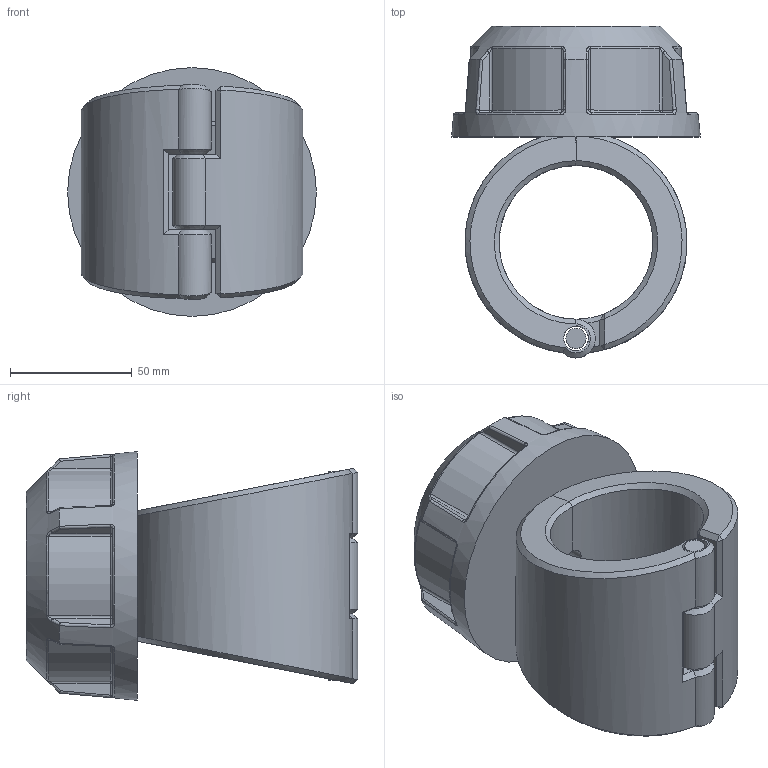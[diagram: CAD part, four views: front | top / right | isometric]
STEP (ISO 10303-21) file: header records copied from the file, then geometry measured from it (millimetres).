
FILE_DESCRIPTION(/* description */ ('Plassadle Threaded 63x1/2'''''),/* implementation_level */ '2;1');
FILE_NAME(/* name */ 'C:\Users\comp2\Dropbox\99-16-3568-Processing\Mechanical Fittings\16300\stp\163000063005.stp',/* time_stamp */ '2022-02-03T11:46:28+00:00',/* author */ ('comp2'),/* organization */ (''),/* preprocessor_version */ 'ST-DEVELOPER v17.2',/* originating_system */ 'Autodesk Inventor 2019',/* authorisation */ '');
FILE_SCHEMA (('AUTOMOTIVE_DESIGN { 1 0 10303 214 3 1 1 }'));
Length unit declared in the file: millimetre
Products named in the file (1): 163000063005
Bounding box: 102 x 136 x 102 mm (x, y, z)
Volume: 505907 mm3; surface area: 78242.7 mm2
Topology: 4 solids, 4 shells, 203 faces, 486 edges, 293 vertices
Faces by surface type: bspline 58, plane 53, cylinder 47, torus 18, cone 15, sphere 12
Full cylindrical faces by diameter (mm): 8.22 x1, 9.316 x1, 10.22 x3, 15.836 x1, 18.631 x1, 27.947 x1
Entity records: 8215 total; most frequent: CARTESIAN_POINT 3868, ORIENTED_EDGE 972, DIRECTION 781, EDGE_CURVE 486, AXIS2_PLACEMENT_3D 330, VERTEX_POINT 293, EDGE_LOOP 213, FACE_OUTER_BOUND 203
